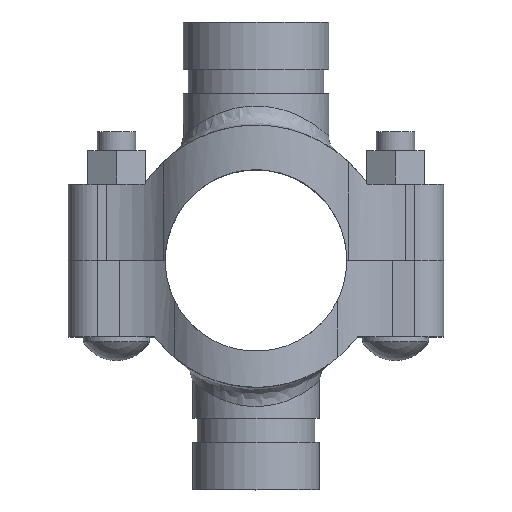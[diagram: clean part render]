
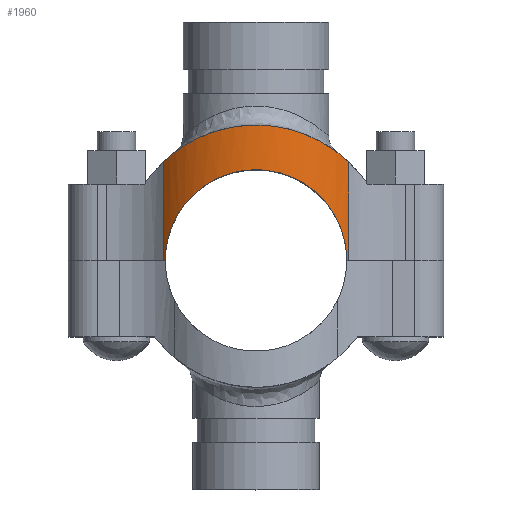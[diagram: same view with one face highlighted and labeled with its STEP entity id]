
A CAD part, top view. The second image highlights one B-rep face of the part: STEP entity #1960.
In plain terms, the highlighted cylindrical face has radius 41.275 mm (diameter 82.55 mm), a partial arc.
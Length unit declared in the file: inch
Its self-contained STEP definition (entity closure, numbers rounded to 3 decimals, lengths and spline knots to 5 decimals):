
#33=B_SPLINE_CURVE_WITH_KNOTS('',3,(#3180,#3181,#3182,#3183,#3184,#3185,
#3186,#3187,#3188,#3189,#3190,#3191,#3192,#3193,#3194,#3195,#3196,#3197,
#3198,#3199,#3200,#3201),.UNSPECIFIED.,.F.,.F.,(4,2,2,2,2,2,2,2,2,2,4),
(3.39758,3.66508,4.50306,5.34104,6.17903,
7.01701,7.85499,8.69297,9.53096,10.36894,
10.63644),.UNSPECIFIED.);
#36=B_SPLINE_CURVE_WITH_KNOTS('',3,(#3419,#3420,#3421,#3422,#3423,#3424,
#3425,#3426,#3427,#3428,#3429,#3430,#3431,#3432,#3433,#3434,#3435,#3436,
#3437,#3438,#3439,#3440,#3441,#3442,#3443,#3444,#3445,#3446,#3447,#3448,
#3449,#3450,#3451,#3452),.UNSPECIFIED.,.F.,.F.,(4,2,2,2,2,2,2,2,2,2,2,2,
2,2,2,2,4),(0.,0.6042,1.20839,1.81259,2.41678,
3.01003,3.60328,4.19653,4.78977,5.38302,
5.97627,6.56952,7.16276,7.76696,8.37115,
8.97535,9.57955),.UNSPECIFIED.);
#80=CYLINDRICAL_SURFACE('',#2186,1.625);
#188=FACE_OUTER_BOUND('',#308,.T.);
#308=EDGE_LOOP('',(#1489,#1490,#1491,#1492,#1493,#1494));
#453=LINE('',#3569,#601);
#454=LINE('',#3573,#602);
#601=VECTOR('',#2591,0.3937);
#602=VECTOR('',#2598,0.3937);
#702=CIRCLE('',#2159,1.625);
#719=CIRCLE('',#2187,1.625);
#790=VERTEX_POINT('',#3170);
#791=VERTEX_POINT('',#3179);
#836=VERTEX_POINT('',#3417);
#837=VERTEX_POINT('',#3418);
#842=VERTEX_POINT('',#3499);
#867=VERTEX_POINT('',#3568);
#982=EDGE_CURVE('',#791,#790,#33,.T.);
#1051=EDGE_CURVE('',#836,#837,#36,.T.);
#1059=EDGE_CURVE('',#842,#836,#702,.T.);
#1093=EDGE_CURVE('',#867,#791,#453,.T.);
#1095=EDGE_CURVE('',#837,#867,#719,.T.);
#1096=EDGE_CURVE('',#842,#790,#454,.T.);
#1489=ORIENTED_EDGE('',*,*,#1051,.T.);
#1490=ORIENTED_EDGE('',*,*,#1095,.T.);
#1491=ORIENTED_EDGE('',*,*,#1093,.T.);
#1492=ORIENTED_EDGE('',*,*,#982,.T.);
#1493=ORIENTED_EDGE('',*,*,#1096,.F.);
#1494=ORIENTED_EDGE('',*,*,#1059,.T.);
#1960=ADVANCED_FACE('',(#188),#80,.T.);
#2159=AXIS2_PLACEMENT_3D('',#3500,#2521,#2522);
#2186=AXIS2_PLACEMENT_3D('',#3571,#2594,#2595);
#2187=AXIS2_PLACEMENT_3D('',#3572,#2596,#2597);
#2521=DIRECTION('center_axis',(0.,1.,0.));
#2522=DIRECTION('ref_axis',(0.745,0.,-0.667));
#2591=DIRECTION('',(0.,1.,0.));
#2594=DIRECTION('center_axis',(0.,1.,0.));
#2595=DIRECTION('ref_axis',(0.745,0.,-0.667));
#2596=DIRECTION('center_axis',(0.,1.,0.));
#2597=DIRECTION('ref_axis',(0.745,0.,-0.667));
#2598=DIRECTION('',(0.,1.,0.));
#3170=CARTESIAN_POINT('',(1.2112,1.29069,-1.08333));
#3179=CARTESIAN_POINT('',(-1.2112,1.29069,-1.08333));
#3180=CARTESIAN_POINT('Ctrl Pts',(-1.2112,1.29069,-1.08333));
#3181=CARTESIAN_POINT('Ctrl Pts',(-1.19104,1.30961,-1.10587));
#3182=CARTESIAN_POINT('Ctrl Pts',(-1.1703,1.32818,-1.1278));
#3183=CARTESIAN_POINT('Ctrl Pts',(-1.08247,1.40315,-1.21563));
#3184=CARTESIAN_POINT('Ctrl Pts',(-1.0062,1.45956,-1.28015));
#3185=CARTESIAN_POINT('Ctrl Pts',(-0.83664,1.56295,-1.39687));
#3186=CARTESIAN_POINT('Ctrl Pts',(-0.74332,1.6099,-1.44908));
#3187=CARTESIAN_POINT('Ctrl Pts',(-0.54445,1.68756,-1.5349));
#3188=CARTESIAN_POINT('Ctrl Pts',(-0.43865,1.71835,-1.5686));
#3189=CARTESIAN_POINT('Ctrl Pts',(-0.22141,1.75957,-1.61366));
#3190=CARTESIAN_POINT('Ctrl Pts',(-0.10997,1.77,-1.625));
#3191=CARTESIAN_POINT('Ctrl Pts',(0.10997,1.77,-1.625));
#3192=CARTESIAN_POINT('Ctrl Pts',(0.22141,1.75957,-1.61366));
#3193=CARTESIAN_POINT('Ctrl Pts',(0.43865,1.71835,-1.5686));
#3194=CARTESIAN_POINT('Ctrl Pts',(0.54445,1.68756,-1.5349));
#3195=CARTESIAN_POINT('Ctrl Pts',(0.74332,1.6099,-1.44908));
#3196=CARTESIAN_POINT('Ctrl Pts',(0.83664,1.56295,-1.39687));
#3197=CARTESIAN_POINT('Ctrl Pts',(1.0062,1.45956,-1.28015));
#3198=CARTESIAN_POINT('Ctrl Pts',(1.08247,1.40315,-1.21563));
#3199=CARTESIAN_POINT('Ctrl Pts',(1.1703,1.32818,-1.1278));
#3200=CARTESIAN_POINT('Ctrl Pts',(1.19104,1.30961,-1.10587));
#3201=CARTESIAN_POINT('Ctrl Pts',(1.2112,1.29069,-1.08333));
#3417=CARTESIAN_POINT('',(1.1875,0.,-1.10926));
#3418=CARTESIAN_POINT('',(-1.1875,0.,-1.10926));
#3419=CARTESIAN_POINT('Ctrl Pts',(1.1875,0.,-1.10926));
#3420=CARTESIAN_POINT('Ctrl Pts',(1.1875,0.07929,-1.10926));
#3421=CARTESIAN_POINT('Ctrl Pts',(1.17947,0.15915,-1.11803));
#3422=CARTESIAN_POINT('Ctrl Pts',(1.14773,0.31496,-1.15059));
#3423=CARTESIAN_POINT('Ctrl Pts',(1.12403,0.39095,-1.17426));
#3424=CARTESIAN_POINT('Ctrl Pts',(1.06293,0.53522,-1.22984));
#3425=CARTESIAN_POINT('Ctrl Pts',(1.02547,0.60366,-1.26172));
#3426=CARTESIAN_POINT('Ctrl Pts',(0.93965,0.73011,-1.32687));
#3427=CARTESIAN_POINT('Ctrl Pts',(0.89126,0.78812,-1.36012));
#3428=CARTESIAN_POINT('Ctrl Pts',(0.78906,0.89032,-1.4218));
#3429=CARTESIAN_POINT('Ctrl Pts',(0.73157,0.93852,-1.45267));
#3430=CARTESIAN_POINT('Ctrl Pts',(0.60512,1.02461,-1.50972));
#3431=CARTESIAN_POINT('Ctrl Pts',(0.53616,1.06252,-1.53588));
#3432=CARTESIAN_POINT('Ctrl Pts',(0.39055,1.12422,-1.5792));
#3433=CARTESIAN_POINT('Ctrl Pts',(0.31375,1.14808,-1.59638));
#3434=CARTESIAN_POINT('Ctrl Pts',(0.15741,1.17972,-1.61929));
#3435=CARTESIAN_POINT('Ctrl Pts',(0.07785,1.1875,-1.625));
#3436=CARTESIAN_POINT('Ctrl Pts',(-0.07785,1.1875,-1.625));
#3437=CARTESIAN_POINT('Ctrl Pts',(-0.15741,1.17972,-1.61929));
#3438=CARTESIAN_POINT('Ctrl Pts',(-0.31375,1.14808,-1.59638));
#3439=CARTESIAN_POINT('Ctrl Pts',(-0.39055,1.12422,-1.5792));
#3440=CARTESIAN_POINT('Ctrl Pts',(-0.53616,1.06252,-1.53588));
#3441=CARTESIAN_POINT('Ctrl Pts',(-0.60512,1.02461,-1.50972));
#3442=CARTESIAN_POINT('Ctrl Pts',(-0.73157,0.93852,
-1.45267));
#3443=CARTESIAN_POINT('Ctrl Pts',(-0.78906,0.89032,
-1.4218));
#3444=CARTESIAN_POINT('Ctrl Pts',(-0.89126,0.78812,-1.36012));
#3445=CARTESIAN_POINT('Ctrl Pts',(-0.93965,0.73011,
-1.32687));
#3446=CARTESIAN_POINT('Ctrl Pts',(-1.02547,0.60366,-1.26172));
#3447=CARTESIAN_POINT('Ctrl Pts',(-1.06293,0.53522,-1.22984));
#3448=CARTESIAN_POINT('Ctrl Pts',(-1.12403,0.39095,-1.17426));
#3449=CARTESIAN_POINT('Ctrl Pts',(-1.14773,0.31496,-1.15059));
#3450=CARTESIAN_POINT('Ctrl Pts',(-1.17947,0.15915,-1.11803));
#3451=CARTESIAN_POINT('Ctrl Pts',(-1.1875,0.07929,-1.10926));
#3452=CARTESIAN_POINT('Ctrl Pts',(-1.1875,0.,-1.10926));
#3499=CARTESIAN_POINT('',(1.2112,0.,-1.08333));
#3500=CARTESIAN_POINT('Origin',(0.,0.,0.));
#3568=CARTESIAN_POINT('',(-1.2112,0.,-1.08333));
#3569=CARTESIAN_POINT('',(-1.2112,0.,-1.08333));
#3571=CARTESIAN_POINT('Origin',(0.,0.,0.));
#3572=CARTESIAN_POINT('Origin',(0.,0.,0.));
#3573=CARTESIAN_POINT('',(1.2112,0.,-1.08333));
